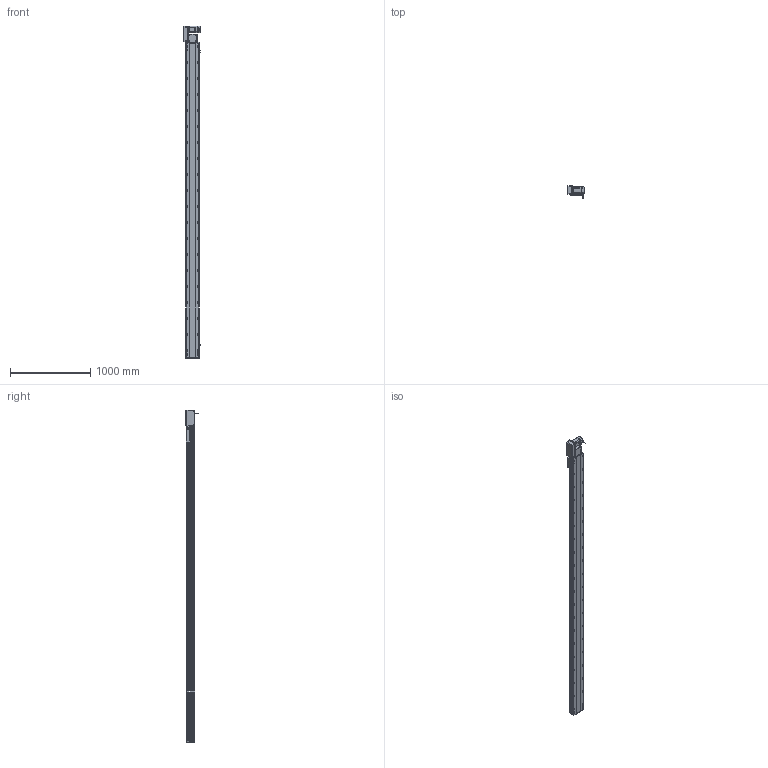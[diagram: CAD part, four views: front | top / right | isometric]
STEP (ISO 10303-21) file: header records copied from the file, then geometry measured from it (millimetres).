
FILE_DESCRIPTION (( 'STEP AP214' ), '1' );
FILE_NAME ('RTB17S-XX-3650-L-M75-C4.STEP', '2025-12-12T00:28:50', ( '' ), ( '' ), 'SwSTEP 2.0', 'SolidWorks 2018', '' );
FILE_SCHEMA (( 'AUTOMOTIVE_DESIGN' ));
Length unit declared in the file: millimetre
Products named in the file (15): RTB22S-GY-018P^RTB17S-L-々湍釱蚾饜-750W_RTB17S-XX-XX-L-M75-C4; RTB22S-GY-008-M75--萇儂啣^RTB17S-L-々湍釱蚾饜-750W_RTB17S-XX-XX-L-M75-C4; EE672^RTB17S-XX-XX-L-M75-C4; RMP17S-L-014-T20-P75--々湍釱^RTB17S-L-々湍釱蚾饜-750W_RTB17S-XX-XX-L-M75-C4; 750W萇儂^RTB17S-XX-XX-L-M75-C4; RTH13-BL-012覜茼え俋离^RTB17S-賑釱_RTB17S-XX-XX-L-M75-C4; RTB22S-GY-017P^RTB17S-L-々湍釱蚾饜-750W_RTB17S-XX-XX-L-M75-C4; RTB17S-L-001-耜醱啣^RTB17S-XX-XX-L-M75-C4; RTB17S-賑釱^RTB17S-XX-XX-L-M75-C4; RTB17S-L-007奻裔^RTB17S-XX-XX-L-M75-C4; RTB17S-XX-3650-L-M75-C4; RTB17S-L-004-賑釱^RTB17S-賑釱_RTB17S-XX-XX-L-M75-C4; RTB17-R-011菁釱^RTB17S-XX-XX-L-M75-C4; RTB22S-GY-005P^RTB17S-L-々湍釱蚾饜-750W_RTB17S-XX-XX-L-M75-C4; RTB17S-L-々湍釱蚾饜-750W^RTB17S-XX-XX-L-M75-C4
Assembly tree (17 placements, depth 3):
  RTB17S-XX-3650-L-M75-C4
    RTB17-R-011菁釱^RTB17S-XX-XX-L-M75-C4
    EE672^RTB17S-XX-XX-L-M75-C4  x3
    RTB17S-L-001-耜醱啣^RTB17S-XX-XX-L-M75-C4
    RTB17S-賑釱^RTB17S-XX-XX-L-M75-C4
      RTB17S-L-004-賑釱^RTB17S-賑釱_RTB17S-XX-XX-L-M75-C4
      RTH13-BL-012覜茼え俋离^RTB17S-賑釱_RTB17S-XX-XX-L-M75-C4
    RTB17S-L-007奻裔^RTB17S-XX-XX-L-M75-C4
    750W萇儂^RTB17S-XX-XX-L-M75-C4
    RTB17S-L-々湍釱蚾饜-750W^RTB17S-XX-XX-L-M75-C4
      RMP17S-L-014-T20-P75--々湍釱^RTB17S-L-々湍釱蚾饜-750W_RTB17S-XX-XX-L-M75-C4
      RTB22S-GY-005P^RTB17S-L-々湍釱蚾饜-750W_RTB17S-XX-XX-L-M75-C4
      RTB22S-GY-017P^RTB17S-L-々湍釱蚾饜-750W_RTB17S-XX-XX-L-M75-C4  x2
      RTB22S-GY-008-M75--萇儂啣^RTB17S-L-々湍釱蚾饜-750W_RTB17S-XX-XX-L-M75-C4
      RTB22S-GY-018P^RTB17S-L-々湍釱蚾饜-750W_RTB17S-XX-XX-L-M75-C4
Bounding box: 210.4 x 152.7 x 4149 mm (x, y, z)
Volume: 28761467.8 mm3; surface area: 5327790.1 mm2
Topology: 17 solids, 17 shells, 2313 faces, 6538 edges, 4238 vertices
Faces by surface type: plane 998, cylinder 899, bspline 294, cone 110, sphere 8, torus 4
Entity records: 68854 total; most frequent: CARTESIAN_POINT 20602, ORIENTED_EDGE 9920, DIRECTION 9122, EDGE_CURVE 4960, AXIS2_PLACEMENT_3D 3258, VERTEX_POINT 3242, VECTOR 2606, LINE 2606
